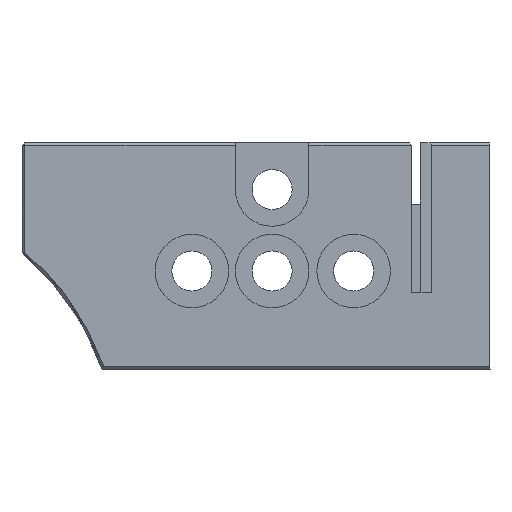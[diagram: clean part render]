
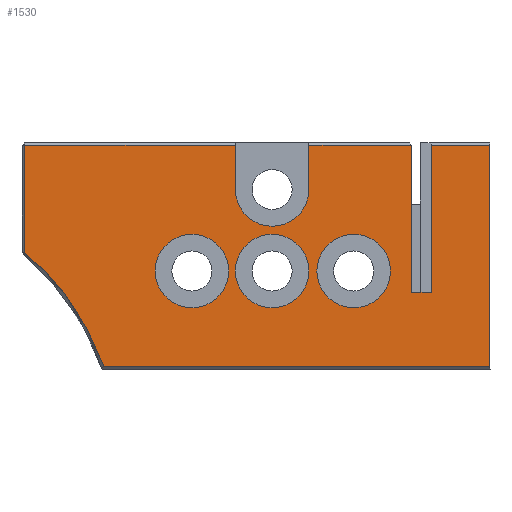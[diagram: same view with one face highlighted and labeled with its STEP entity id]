
A CAD part, front view. The second image highlights one B-rep face of the part: STEP entity #1530.
In plain terms, the highlighted planar face has unit normal (0, -1, 0).
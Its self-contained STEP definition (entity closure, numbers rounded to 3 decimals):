
#18=B_SPLINE_CURVE_WITH_KNOTS('',3,(#2276,#2277,#2278,#2279),
 .UNSPECIFIED.,.F.,.F.,(4,4),(0.331,0.885),
 .UNSPECIFIED.);
#41=FACE_BOUND('',#169,.T.);
#42=FACE_BOUND('',#170,.T.);
#43=FACE_BOUND('',#171,.T.);
#51=CIRCLE('',#1611,2.75);
#55=CIRCLE('',#1622,2.75);
#56=CIRCLE('',#1623,2.75);
#57=CIRCLE('',#1624,2.75);
#82=FACE_OUTER_BOUND('',#168,.T.);
#168=EDGE_LOOP('',(#1104,#1105,#1106,#1107,#1108,#1109,#1110,#1111,#1112,
#1113,#1114,#1115,#1116));
#169=EDGE_LOOP('',(#1117));
#170=EDGE_LOOP('',(#1118));
#171=EDGE_LOOP('',(#1119));
#252=LINE('',#2105,#446);
#262=LINE('',#2124,#456);
#279=LINE('',#2162,#473);
#317=LINE('',#2248,#511);
#325=LINE('',#2262,#519);
#326=LINE('',#2264,#520);
#327=LINE('',#2266,#521);
#328=LINE('',#2270,#522);
#329=LINE('',#2272,#523);
#330=LINE('',#2274,#524);
#331=LINE('',#2280,#525);
#446=VECTOR('',#1712,10.);
#456=VECTOR('',#1726,10.);
#473=VECTOR('',#1753,10.);
#511=VECTOR('',#1811,10.);
#519=VECTOR('',#1821,10.);
#520=VECTOR('',#1824,10.);
#521=VECTOR('',#1825,10.);
#522=VECTOR('',#1828,10.);
#523=VECTOR('',#1829,10.);
#524=VECTOR('',#1830,10.);
#525=VECTOR('',#1831,10.);
#634=VERTEX_POINT('',#2090);
#639=VERTEX_POINT('',#2104);
#646=VERTEX_POINT('',#2122);
#662=VERTEX_POINT('',#2161);
#687=VERTEX_POINT('',#2213);
#699=VERTEX_POINT('',#2245);
#700=VERTEX_POINT('',#2247);
#705=VERTEX_POINT('',#2260);
#706=VERTEX_POINT('',#2265);
#707=VERTEX_POINT('',#2267);
#708=VERTEX_POINT('',#2269);
#709=VERTEX_POINT('',#2271);
#710=VERTEX_POINT('',#2273);
#711=VERTEX_POINT('',#2275);
#712=VERTEX_POINT('',#2281);
#713=VERTEX_POINT('',#2283);
#783=EDGE_CURVE('',#634,#639,#252,.T.);
#793=EDGE_CURVE('',#646,#634,#262,.T.);
#811=EDGE_CURVE('',#639,#662,#279,.T.);
#837=EDGE_CURVE('',#687,#687,#51,.T.);
#853=EDGE_CURVE('',#699,#700,#317,.T.);
#861=EDGE_CURVE('',#705,#699,#325,.T.);
#862=EDGE_CURVE('',#705,#662,#326,.T.);
#863=EDGE_CURVE('',#646,#706,#327,.T.);
#864=EDGE_CURVE('',#706,#707,#55,.T.);
#865=EDGE_CURVE('',#707,#708,#328,.T.);
#866=EDGE_CURVE('',#709,#708,#329,.T.);
#867=EDGE_CURVE('',#710,#709,#330,.T.);
#868=EDGE_CURVE('',#711,#710,#18,.T.);
#869=EDGE_CURVE('',#700,#711,#331,.T.);
#870=EDGE_CURVE('',#712,#712,#56,.T.);
#871=EDGE_CURVE('',#713,#713,#57,.T.);
#1104=ORIENTED_EDGE('',*,*,#861,.F.);
#1105=ORIENTED_EDGE('',*,*,#862,.T.);
#1106=ORIENTED_EDGE('',*,*,#811,.F.);
#1107=ORIENTED_EDGE('',*,*,#783,.F.);
#1108=ORIENTED_EDGE('',*,*,#793,.F.);
#1109=ORIENTED_EDGE('',*,*,#863,.T.);
#1110=ORIENTED_EDGE('',*,*,#864,.T.);
#1111=ORIENTED_EDGE('',*,*,#865,.T.);
#1112=ORIENTED_EDGE('',*,*,#866,.F.);
#1113=ORIENTED_EDGE('',*,*,#867,.F.);
#1114=ORIENTED_EDGE('',*,*,#868,.F.);
#1115=ORIENTED_EDGE('',*,*,#869,.F.);
#1116=ORIENTED_EDGE('',*,*,#853,.F.);
#1117=ORIENTED_EDGE('',*,*,#837,.T.);
#1118=ORIENTED_EDGE('',*,*,#870,.T.);
#1119=ORIENTED_EDGE('',*,*,#871,.T.);
#1456=PLANE('',#1621);
#1530=ADVANCED_FACE('',(#82,#41,#42,#43),#1456,.T.);
#1611=AXIS2_PLACEMENT_3D('',#2214,#1781,#1782);
#1621=AXIS2_PLACEMENT_3D('',#2263,#1822,#1823);
#1622=AXIS2_PLACEMENT_3D('',#2268,#1826,#1827);
#1623=AXIS2_PLACEMENT_3D('',#2282,#1832,#1833);
#1624=AXIS2_PLACEMENT_3D('',#2284,#1834,#1835);
#1712=DIRECTION('',(0.,0.,-1.));
#1726=DIRECTION('',(1.,0.,0.));
#1753=DIRECTION('',(1.,0.,0.));
#1781=DIRECTION('center_axis',(0.,1.,0.));
#1782=DIRECTION('ref_axis',(0.,0.,1.));
#1811=DIRECTION('',(0.,0.,-1.));
#1821=DIRECTION('',(1.,0.,0.));
#1822=DIRECTION('center_axis',(0.,-1.,0.));
#1823=DIRECTION('ref_axis',(1.,0.,0.));
#1824=DIRECTION('',(0.,0.,-1.));
#1825=DIRECTION('',(0.,0.,-1.));
#1826=DIRECTION('center_axis',(0.,1.,0.));
#1827=DIRECTION('ref_axis',(0.,0.,1.));
#1828=DIRECTION('',(0.,0.,1.));
#1829=DIRECTION('',(1.,0.,0.));
#1830=DIRECTION('',(0.,0.,1.));
#1831=DIRECTION('',(-1.,0.,0.));
#1832=DIRECTION('center_axis',(0.,1.,0.));
#1833=DIRECTION('ref_axis',(0.,0.,1.));
#1834=DIRECTION('center_axis',(0.,1.,0.));
#1835=DIRECTION('ref_axis',(0.,0.,1.));
#2090=CARTESIAN_POINT('',(39.17,-23.068,17.337));
#2104=CARTESIAN_POINT('',(39.17,-23.068,6.337));
#2105=CARTESIAN_POINT('',(39.17,-23.068,15.75));
#2122=CARTESIAN_POINT('',(31.47,-23.068,17.337));
#2124=CARTESIAN_POINT('',(37.167,-23.068,17.337));
#2161=CARTESIAN_POINT('',(40.62,-23.068,6.337));
#2162=CARTESIAN_POINT('',(35.992,-23.068,6.337));
#2213=CARTESIAN_POINT('',(22.72,-23.068,5.187));
#2214=CARTESIAN_POINT('Origin',(22.72,-23.068,7.937));
#2245=CARTESIAN_POINT('',(45.02,-23.068,17.337));
#2247=CARTESIAN_POINT('',(45.02,-23.068,0.788));
#2248=CARTESIAN_POINT('',(45.02,-23.068,4.825));
#2260=CARTESIAN_POINT('',(40.62,-23.068,17.337));
#2262=CARTESIAN_POINT('',(37.167,-23.068,17.337));
#2263=CARTESIAN_POINT('Origin',(33.114,-23.068,8.563));
#2264=CARTESIAN_POINT('',(40.62,-23.068,15.75));
#2265=CARTESIAN_POINT('',(31.47,-23.068,14.037));
#2266=CARTESIAN_POINT('',(31.47,-23.068,13.3));
#2267=CARTESIAN_POINT('',(25.97,-23.068,14.037));
#2268=CARTESIAN_POINT('Origin',(28.72,-23.068,14.037));
#2269=CARTESIAN_POINT('',(25.97,-23.068,17.337));
#2270=CARTESIAN_POINT('',(25.97,-23.068,11.3));
#2271=CARTESIAN_POINT('',(10.208,-23.068,17.337));
#2272=CARTESIAN_POINT('',(37.167,-23.068,17.337));
#2273=CARTESIAN_POINT('',(10.208,-23.068,9.309));
#2274=CARTESIAN_POINT('',(10.208,-23.068,12.3));
#2275=CARTESIAN_POINT('',(16.139,-23.068,0.788));
#2276=CARTESIAN_POINT('Ctrl Pts',(16.139,-23.068,0.788));
#2277=CARTESIAN_POINT('Ctrl Pts',(14.998,-23.068,4.102));
#2278=CARTESIAN_POINT('Ctrl Pts',(12.92,-23.068,7.088));
#2279=CARTESIAN_POINT('Ctrl Pts',(10.208,-23.068,9.309));
#2280=CARTESIAN_POINT('',(29.061,-23.068,0.788));
#2281=CARTESIAN_POINT('',(28.72,-23.068,5.187));
#2282=CARTESIAN_POINT('Origin',(28.72,-23.068,7.937));
#2283=CARTESIAN_POINT('',(34.82,-23.068,5.187));
#2284=CARTESIAN_POINT('Origin',(34.82,-23.068,7.937));
